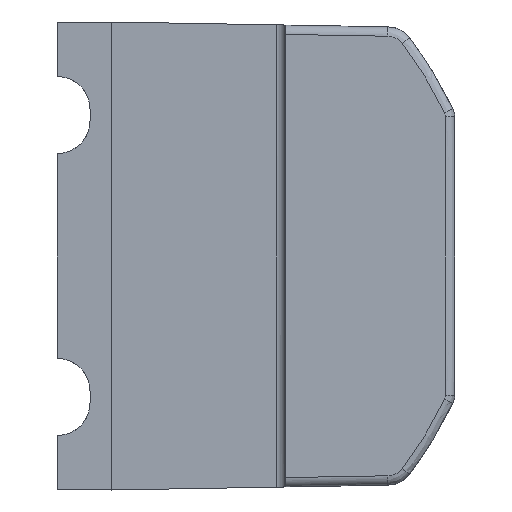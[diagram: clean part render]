
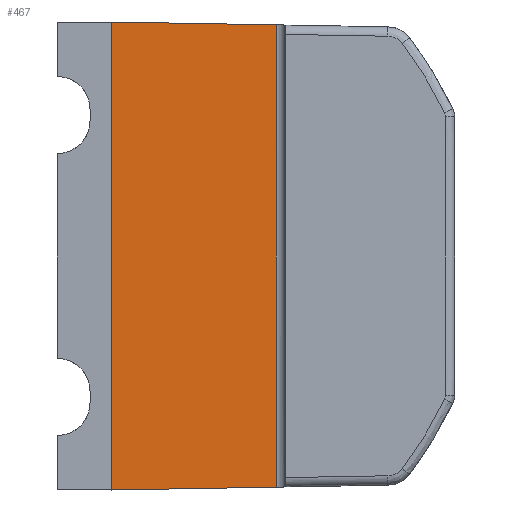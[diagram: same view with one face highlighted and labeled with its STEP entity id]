
A CAD part, front view. The second image highlights one B-rep face of the part: STEP entity #467.
In plain terms, the highlighted planar face has unit normal (-0.009, -1, 0).
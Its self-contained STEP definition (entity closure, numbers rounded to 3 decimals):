
#108 = VERTEX_POINT ( 'NONE', #1714 ) ;
#135 = VECTOR ( 'NONE', #2641, 1000. ) ;
#215 = PLANE ( 'NONE',  #5853 ) ;
#255 = ORIENTED_EDGE ( 'NONE', *, *, #5464, .T. ) ;
#332 = VECTOR ( 'NONE', #3677, 1000. ) ;
#355 = LINE ( 'NONE', #760, #1021 ) ;
#405 = VECTOR ( 'NONE', #6001, 1000. ) ;
#467 = ADVANCED_FACE ( 'NONE', ( #1118 ), #215, .T. ) ;
#639 = ORIENTED_EDGE ( 'NONE', *, *, #1666, .F. ) ;
#760 = CARTESIAN_POINT ( 'NONE',  ( 13.654, 0.004, 0. ) ) ;
#771 = LINE ( 'NONE', #2570, #135 ) ;
#953 = CARTESIAN_POINT ( 'NONE',  ( 4.9, 0.081, -12.449 ) ) ;
#1021 = VECTOR ( 'NONE', #2729, 1000. ) ;
#1118 = FACE_OUTER_BOUND ( 'NONE', #2048, .T. ) ;
#1489 = EDGE_CURVE ( 'NONE', #1518, #108, #771, .T. ) ;
#1518 = VERTEX_POINT ( 'NONE', #4968 ) ;
#1609 = DIRECTION ( 'NONE',  ( 1., -0.009, 0. ) ) ;
#1666 = EDGE_CURVE ( 'NONE', #3614, #1518, #5474, .T. ) ;
#1714 = CARTESIAN_POINT ( 'NONE',  ( 13.654, 0.004, 12.297 ) ) ;
#2048 = EDGE_LOOP ( 'NONE', ( #639, #5407, #255, #3924 ) ) ;
#2570 = CARTESIAN_POINT ( 'NONE',  ( 1.912, 0.107, 12.502 ) ) ;
#2575 = CARTESIAN_POINT ( 'NONE',  ( 13.654, 0.004, -12.297 ) ) ;
#2619 = CARTESIAN_POINT ( 'NONE',  ( 14.15, 0., 12.5 ) ) ;
#2641 = DIRECTION ( 'NONE',  ( 1., -0.009, -0.017 ) ) ;
#2729 = DIRECTION ( 'NONE',  ( 0., 0., 1. ) ) ;
#3572 = DIRECTION ( 'NONE',  ( -0.009, -1., 0. ) ) ;
#3606 = CARTESIAN_POINT ( 'NONE',  ( 4.9, 0.081, 12.5 ) ) ;
#3614 = VERTEX_POINT ( 'NONE', #953 ) ;
#3677 = DIRECTION ( 'NONE',  ( 0., 0., 1. ) ) ;
#3924 = ORIENTED_EDGE ( 'NONE', *, *, #1489, .F. ) ;
#4421 = VERTEX_POINT ( 'NONE', #2575 ) ;
#4968 = CARTESIAN_POINT ( 'NONE',  ( 4.9, 0.081, 12.449 ) ) ;
#4998 = CARTESIAN_POINT ( 'NONE',  ( 1.912, 0.107, -12.502 ) ) ;
#5407 = ORIENTED_EDGE ( 'NONE', *, *, #5962, .T. ) ;
#5464 = EDGE_CURVE ( 'NONE', #4421, #108, #355, .T. ) ;
#5474 = LINE ( 'NONE', #3606, #332 ) ;
#5507 = LINE ( 'NONE', #4998, #405 ) ;
#5853 = AXIS2_PLACEMENT_3D ( 'NONE', #2619, #3572, #1609 ) ;
#5962 = EDGE_CURVE ( 'NONE', #3614, #4421, #5507, .T. ) ;
#6001 = DIRECTION ( 'NONE',  ( 1., -0.009, 0.017 ) ) ;
